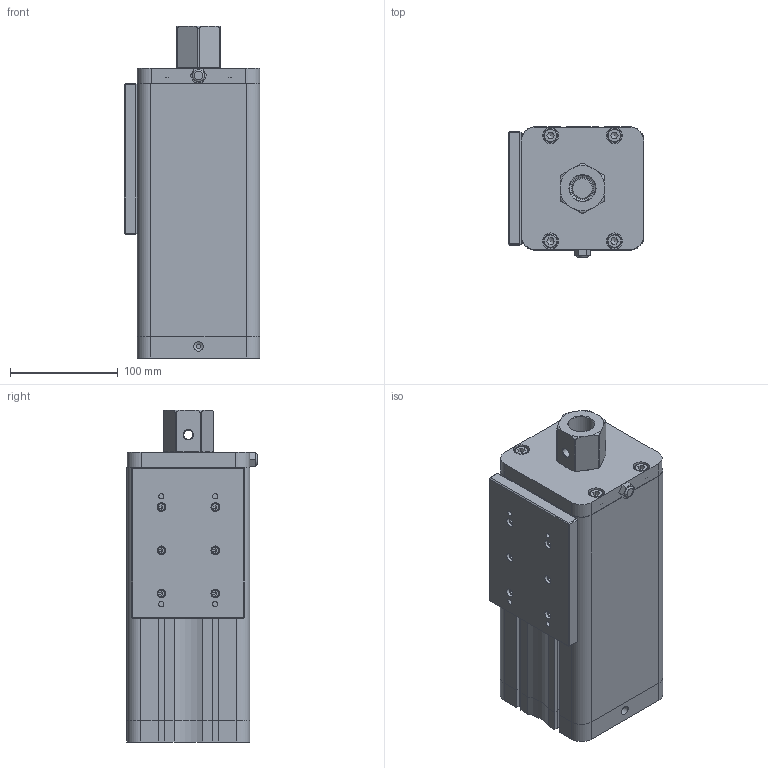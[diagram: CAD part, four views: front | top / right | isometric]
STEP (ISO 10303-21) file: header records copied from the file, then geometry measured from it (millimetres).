
FILE_DESCRIPTION(/* description */ ('Luft-Öl Druckölerzeuger Air - Oil Pressure Intensifier'),/* implementation_level */ '2;1');
FILE_NAME(/* name */ 'Druckbersetzer 1410.40.00 .stp',/* time_stamp */ '2026-06-22T13:19:02+02:00',/* author */ ('HWalkhoff'),/* organization */ (''),/* preprocessor_version */ 'ST-DEVELOPER v20.1',/* originating_system */ 'Autodesk Inventor 2026',/* authorisation */ '');
FILE_SCHEMA (('AUTOMOTIVE_DESIGN { 1 0 10303 214 3 1 1 }'));
Products named in the file (23):  1410.40.00 (2025); 1410.35.21; 1410.35.26; 1410.35.22; 40,0 x 2,0; 1410.40.15; RS01B 20 x 27,3 x 3,0; DIN 7500 EE-M8 x 30; 1410.40.13; DR A020 Z4004; DIN 125-B 28; 1410.35.14; 15,54 x 2,62; DIN 125-2 - B 17; DIN 934 - M16; 91,67 x 3,53; DIN 1804 - M38; DF3x45x360x14xC; 1410.20.28; 1410.35.17; DIN 912 - M4 x 12; 97,0 x 1,5; J-SD5-1/8-SB-S
Assembly tree (36 placements, depth 2):
   1410.40.00 (2025)
    1410.35.21
    1410.35.26
    1410.35.22
    40,0 x 2,0
    1410.40.15
    RS01B 20 x 27,3 x 3,0  x2
    DIN 7500 EE-M8 x 30  x8
    1410.40.13
    DR A020 Z4004
    DIN 125-B 28
    1410.35.14
    15,54 x 2,62
    DIN 125-2 - B 17
    DIN 934 - M16
    91,67 x 3,53
    DIN 1804 - M38
    DF3x45x360x14xC
    1410.20.28  x2
    1410.35.17
    DIN 912 - M4 x 12  x6
    97,0 x 1,5
    J-SD5-1/8-SB-S
Bounding box: 125.8 x 120.65 x 307.6 mm (x, y, z)
Volume: 1688827.5 mm3; surface area: 606365.5 mm2
Topology: 36 solids, 36 shells, 1336 faces, 3270 edges, 2116 vertices
Faces by surface type: plane 576, cylinder 467, torus 163, cone 96, bspline 34
Full cylindrical faces by diameter (mm): 3.242 x6, 4 x7, 4.5 x6, 4.917 x4, 6 x1, 6.5 x1, 7 x6, 7.5 x4, 8 x14, 8.376 x4, 8.5 x1, 8.566 x4, 8.7 x4, 9 x4, 9.73 x1, 12 x2, 13 x8, 13.5 x4, 13.835 x1, 14.1 x4, 15 x4, 15.6 x1, 16 x1, 17 x1, 20 x7, 20.4 x1, 20.608 x2, 21 x1, 24.117 x1, 26.692 x2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
Entity records: 62502 total; most frequent: CARTESIAN_POINT 34278, DIRECTION 5972, ORIENTED_EDGE 5548, EDGE_CURVE 2774, AXIS2_PLACEMENT_3D 2409, VERTEX_POINT 1789, EDGE_LOOP 1331, CIRCLE 1251
